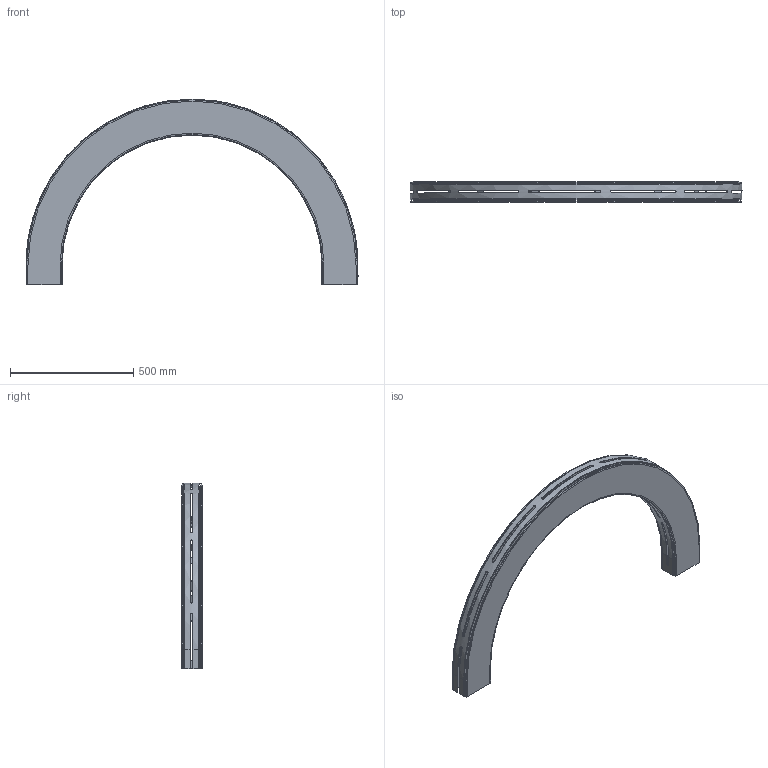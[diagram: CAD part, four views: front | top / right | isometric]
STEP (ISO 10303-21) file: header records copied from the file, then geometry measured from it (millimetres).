
FILE_DESCRIPTION((''),'2;1');
FILE_NAME('C:\Vault Klient\Projekt\Koncept konstruktion\Serie 540 Balk\540-5370.stp','2010-11-25T08:15:39',('Mathias'),(''),'Autodesk Inventor 2011','Autodesk Inventor 2011','');
FILE_SCHEMA(('AUTOMOTIVE_DESIGN { 1 0 10303 214 1 1 1 1 }'));
Length unit declared in the file: millimetre
Products named in the file (1): 540-5370
Bounding box: 1346 x 82 x 753 mm (x, y, z)
Volume: 4614390.8 mm3; surface area: 2368885.6 mm2
Topology: 2 solids, 2 shells, 203 faces, 578 edges, 380 vertices
Faces by surface type: plane 127, bspline 38, cylinder 28, cone 6, torus 4
Entity records: 7998 total; most frequent: CARTESIAN_POINT 2724, ORIENTED_EDGE 1156, DIRECTION 958, EDGE_CURVE 578, VERTEX_POINT 380, VECTOR 378, LINE 378, AXIS2_PLACEMENT_3D 290
